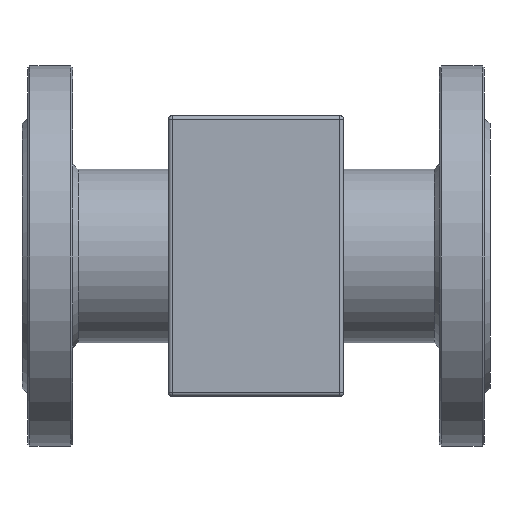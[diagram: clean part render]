
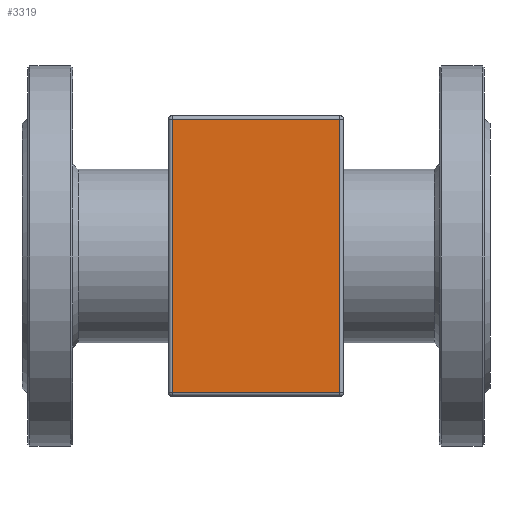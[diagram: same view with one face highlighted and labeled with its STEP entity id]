
A CAD part, front view. The second image highlights one B-rep face of the part: STEP entity #3319.
In plain terms, the highlighted planar face has unit normal (0, -1, 0).
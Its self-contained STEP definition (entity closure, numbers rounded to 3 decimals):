
#3319=ADVANCED_FACE('',(#7004),#7006,.T.);
#7004=FACE_BOUND('',#7005,.T.);
#7005=EDGE_LOOP('',(#10020,#10021,#10022,#10023));
#7006=PLANE('',#7007);
#7007=AXIS2_PLACEMENT_3D('',#7008,#7009,#7010);
#7008=CARTESIAN_POINT('',(45.,-77.5,-72.));
#7009=DIRECTION('',(0.,-1.,0.));
#7010=DIRECTION('',(0.,0.,1.));
#10020=ORIENTED_EDGE('',*,*,#11388,.T.);
#10021=ORIENTED_EDGE('',*,*,#11382,.T.);
#10022=ORIENTED_EDGE('',*,*,#11384,.F.);
#10023=ORIENTED_EDGE('',*,*,#11386,.F.);
#11382=EDGE_CURVE('',#13280,#13258,#13286,.T.);
#11384=EDGE_CURVE('',#13264,#13258,#13288,.T.);
#11386=EDGE_CURVE('',#13274,#13264,#13290,.T.);
#11388=EDGE_CURVE('',#13274,#13280,#13292,.T.);
#13258=VERTEX_POINT('',#18598);
#13264=VERTEX_POINT('',#18616);
#13274=VERTEX_POINT('',#18644);
#13280=VERTEX_POINT('',#18662);
#13286=LINE('',#18680,#18681);
#13288=LINE('',#18686,#18687);
#13290=LINE('',#18692,#18693);
#13292=LINE('',#18698,#18699);
#18598=CARTESIAN_POINT('',(-43.,-77.5,70.));
#18616=CARTESIAN_POINT('',(-43.,-77.5,-70.));
#18644=CARTESIAN_POINT('',(43.,-77.5,-70.));
#18662=CARTESIAN_POINT('',(43.,-77.5,70.));
#18680=CARTESIAN_POINT('',(43.,-77.5,70.));
#18681=VECTOR('',#18682,1.);
#18682=DIRECTION('',(-1.,0.,0.));
#18686=CARTESIAN_POINT('',(-43.,-77.5,-70.));
#18687=VECTOR('',#18688,1.);
#18688=DIRECTION('',(0.,0.,1.));
#18692=CARTESIAN_POINT('',(43.,-77.5,-70.));
#18693=VECTOR('',#18694,1.);
#18694=DIRECTION('',(-1.,0.,0.));
#18698=CARTESIAN_POINT('',(43.,-77.5,-70.));
#18699=VECTOR('',#18700,1.);
#18700=DIRECTION('',(0.,0.,1.));
